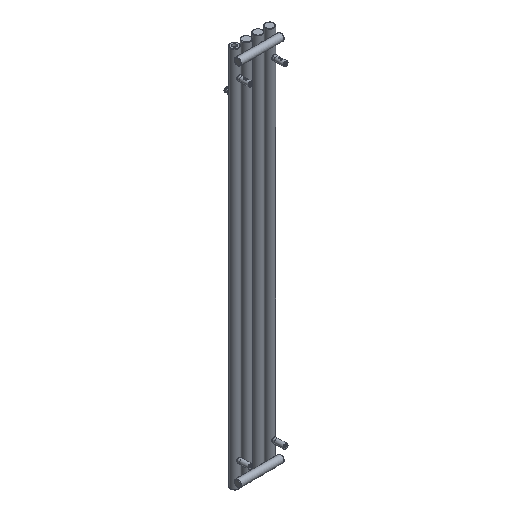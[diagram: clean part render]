
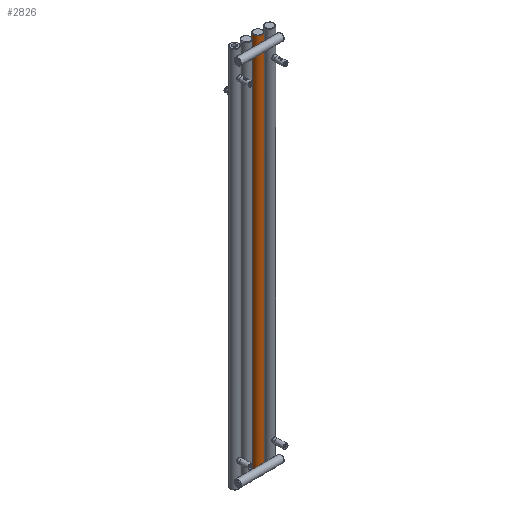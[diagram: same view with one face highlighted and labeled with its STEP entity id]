
A CAD part, isometric view. The second image highlights one B-rep face of the part: STEP entity #2826.
In plain terms, the highlighted cylindrical face has radius 20 mm (diameter 40 mm), a full revolution.
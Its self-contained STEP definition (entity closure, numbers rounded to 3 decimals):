
#199=FACE_BOUND('',#653,.T.);
#200=FACE_BOUND('',#654,.T.);
#201=FACE_BOUND('',#655,.T.);
#237=LINE('',#5260,#327);
#327=VECTOR('',#3522,20.);
#417=CYLINDRICAL_SURFACE('',#3059,20.);
#463=FACE_OUTER_BOUND('',#652,.T.);
#652=EDGE_LOOP('',(#1966,#1967,#1968,#1969,#1970));
#653=EDGE_LOOP('',(#1971));
#654=EDGE_LOOP('',(#1972));
#655=EDGE_LOOP('',(#1973));
#870=B_SPLINE_CURVE_WITH_KNOTS('',3,(#5236,#5237,#5238,#5239,#5240,#5241,
#5242,#5243,#5244,#5245,#5246,#5247,#5248,#5249,#5250,#5251,#5252,#5253,
#5254),.UNSPECIFIED.,.T.,.F.,(4,1,1,1,1,1,1,1,1,1,1,1,1,1,1,1,4),(-5.132,
-4.765,-4.399,-3.91,-3.666,
-3.421,-3.177,-2.933,-2.444,
-2.199,-1.955,-1.711,-1.466,
-1.1,-0.733,-0.367,0.),
 .UNSPECIFIED.);
#871=B_SPLINE_CURVE_WITH_KNOTS('',3,(#5264,#5265,#5266,#5267,#5268,#5269,
#5270,#5271,#5272,#5273,#5274,#5275,#5276,#5277,#5278,#5279,#5280,#5281,
#5282,#5283,#5284,#5285,#5286,#5287,#5288),.UNSPECIFIED.,.T.,.F.,(4,1,1,
1,1,1,1,1,1,1,1,1,1,1,1,1,1,1,1,1,1,1,4),(-5.132,-4.765,
-4.399,-4.154,-3.91,-3.666,
-3.421,-3.177,-2.933,-2.688,
-2.444,-2.322,-2.199,-1.955,
-1.466,-1.1,-0.916,-0.825,
-0.779,-0.756,-0.733,-0.367,
0.),.UNSPECIFIED.);
#872=B_SPLINE_CURVE_WITH_KNOTS('',3,(#5290,#5291,#5292,#5293,#5294,#5295,
#5296,#5297,#5298,#5299,#5300,#5301,#5302,#5303,#5304,#5305,#5306,#5307,
#5308,#5309),.UNSPECIFIED.,.T.,.F.,(4,1,1,1,1,1,1,1,1,1,1,1,1,1,1,1,1,4),
(-6.15,-5.711,-5.272,-4.686,
-4.393,-4.32,-4.247,-4.1,
-3.514,-3.222,-2.929,-2.636,
-2.05,-1.757,-1.318,-0.879,
-0.439,0.),.UNSPECIFIED.);
#934=CIRCLE('',#3060,20.);
#935=CIRCLE('',#3061,20.);
#936=CIRCLE('',#3062,20.);
#1202=VERTEX_POINT('',#5234);
#1203=VERTEX_POINT('',#5256);
#1204=VERTEX_POINT('',#5257);
#1205=VERTEX_POINT('',#5259);
#1206=VERTEX_POINT('',#5263);
#1207=VERTEX_POINT('',#5289);
#1514=EDGE_CURVE('',#1202,#1202,#870,.T.);
#1515=EDGE_CURVE('',#1203,#1204,#934,.T.);
#1516=EDGE_CURVE('',#1203,#1205,#237,.T.);
#1517=EDGE_CURVE('',#1205,#1205,#935,.T.);
#1518=EDGE_CURVE('',#1204,#1203,#936,.T.);
#1519=EDGE_CURVE('',#1206,#1206,#871,.T.);
#1520=EDGE_CURVE('',#1207,#1207,#872,.T.);
#1966=ORIENTED_EDGE('',*,*,#1515,.F.);
#1967=ORIENTED_EDGE('',*,*,#1516,.T.);
#1968=ORIENTED_EDGE('',*,*,#1517,.F.);
#1969=ORIENTED_EDGE('',*,*,#1516,.F.);
#1970=ORIENTED_EDGE('',*,*,#1518,.F.);
#1971=ORIENTED_EDGE('',*,*,#1519,.F.);
#1972=ORIENTED_EDGE('',*,*,#1520,.F.);
#1973=ORIENTED_EDGE('',*,*,#1514,.F.);
#2826=ADVANCED_FACE('',(#463,#199,#200,#201),#417,.T.);
#3059=AXIS2_PLACEMENT_3D('',#5255,#3518,#3519);
#3060=AXIS2_PLACEMENT_3D('',#5258,#3520,#3521);
#3061=AXIS2_PLACEMENT_3D('',#5261,#3523,#3524);
#3062=AXIS2_PLACEMENT_3D('',#5262,#3525,#3526);
#3518=DIRECTION('center_axis',(0.,0.,1.));
#3519=DIRECTION('ref_axis',(-1.,0.,0.));
#3520=DIRECTION('center_axis',(0.,0.,1.));
#3521=DIRECTION('ref_axis',(-1.,0.,0.));
#3522=DIRECTION('',(0.,0.,-1.));
#3523=DIRECTION('center_axis',(0.,0.,-1.));
#3524=DIRECTION('ref_axis',(-1.,0.,0.));
#3525=DIRECTION('center_axis',(0.,0.,1.));
#3526=DIRECTION('ref_axis',(-1.,0.,0.));
#5234=CARTESIAN_POINT('',(-55.,-20.,50.1));
#5236=CARTESIAN_POINT('Ctrl Pts',(-55.,-20.,50.1));
#5237=CARTESIAN_POINT('Ctrl Pts',(-56.611,-20.,50.1));
#5238=CARTESIAN_POINT('Ctrl Pts',(-59.83,-19.61,49.58));
#5239=CARTESIAN_POINT('Ctrl Pts',(-64.319,-17.858,46.75));
#5240=CARTESIAN_POINT('Ctrl Pts',(-66.21,-16.549,41.99));
#5241=CARTESIAN_POINT('Ctrl Pts',(-65.866,-16.799,37.471));
#5242=CARTESIAN_POINT('Ctrl Pts',(-64.65,-17.552,34.432));
#5243=CARTESIAN_POINT('Ctrl Pts',(-62.534,-18.591,32.08));
#5244=CARTESIAN_POINT('Ctrl Pts',(-58.836,-19.82,30.088));
#5245=CARTESIAN_POINT('Ctrl Pts',(-54.418,-20.203,29.641));
#5246=CARTESIAN_POINT('Ctrl Pts',(-50.239,-19.503,30.58));
#5247=CARTESIAN_POINT('Ctrl Pts',(-47.466,-18.592,32.084));
#5248=CARTESIAN_POINT('Ctrl Pts',(-45.351,-17.554,34.428));
#5249=CARTESIAN_POINT('Ctrl Pts',(-43.927,-16.661,37.981));
#5250=CARTESIAN_POINT('Ctrl Pts',(-43.922,-16.659,42.598));
#5251=CARTESIAN_POINT('Ctrl Pts',(-46.137,-18.052,47.027));
#5252=CARTESIAN_POINT('Ctrl Pts',(-50.165,-19.6,49.585));
#5253=CARTESIAN_POINT('Ctrl Pts',(-53.389,-20.,50.1));
#5254=CARTESIAN_POINT('Ctrl Pts',(-55.,-20.,50.1));
#5255=CARTESIAN_POINT('Origin',(-55.,0.,0.));
#5256=CARTESIAN_POINT('',(-35.,0.,1798.));
#5257=CARTESIAN_POINT('',(-75.,0.,1798.));
#5258=CARTESIAN_POINT('Origin',(-55.,0.,1798.));
#5259=CARTESIAN_POINT('',(-35.,0.,2.));
#5260=CARTESIAN_POINT('',(-35.,0.,0.));
#5261=CARTESIAN_POINT('Origin',(-55.,0.,2.));
#5262=CARTESIAN_POINT('Origin',(-55.,0.,1798.));
#5263=CARTESIAN_POINT('',(-55.,-20.,1770.1));
#5264=CARTESIAN_POINT('Ctrl Pts',(-55.,-20.,1770.1));
#5265=CARTESIAN_POINT('Ctrl Pts',(-56.611,-20.,1770.1));
#5266=CARTESIAN_POINT('Ctrl Pts',(-59.838,-19.598,1769.588));
#5267=CARTESIAN_POINT('Ctrl Pts',(-63.412,-18.224,1767.307));
#5268=CARTESIAN_POINT('Ctrl Pts',(-65.38,-17.114,1764.116));
#5269=CARTESIAN_POINT('Ctrl Pts',(-66.115,-16.625,1760.853));
#5270=CARTESIAN_POINT('Ctrl Pts',(-65.87,-16.793,1757.475));
#5271=CARTESIAN_POINT('Ctrl Pts',(-64.649,-17.553,1754.429));
#5272=CARTESIAN_POINT('Ctrl Pts',(-62.534,-18.591,1752.084));
#5273=CARTESIAN_POINT('Ctrl Pts',(-59.761,-19.507,1750.583));
#5274=CARTESIAN_POINT('Ctrl Pts',(-56.624,-20.021,1749.87));
#5275=CARTESIAN_POINT('Ctrl Pts',(-53.917,-20.022,1749.871));
#5276=CARTESIAN_POINT('Ctrl Pts',(-51.806,-19.764,1750.226));
#5277=CARTESIAN_POINT('Ctrl Pts',(-49.778,-19.355,1750.836));
#5278=CARTESIAN_POINT('Ctrl Pts',(-46.524,-18.281,1752.559));
#5279=CARTESIAN_POINT('Ctrl Pts',(-43.908,-16.656,1756.803));
#5280=CARTESIAN_POINT('Ctrl Pts',(-43.931,-16.663,1761.738));
#5281=CARTESIAN_POINT('Ctrl Pts',(-44.887,-17.265,1764.433));
#5282=CARTESIAN_POINT('Ctrl Pts',(-45.595,-17.654,1765.634));
#5283=CARTESIAN_POINT('Ctrl Pts',(-46.001,-17.862,1766.19));
#5284=CARTESIAN_POINT('Ctrl Pts',(-46.248,-17.984,1766.495));
#5285=CARTESIAN_POINT('Ctrl Pts',(-47.399,-18.537,1767.826));
#5286=CARTESIAN_POINT('Ctrl Pts',(-50.162,-19.595,1769.586));
#5287=CARTESIAN_POINT('Ctrl Pts',(-53.389,-20.,1770.1));
#5288=CARTESIAN_POINT('Ctrl Pts',(-55.,-20.,1770.1));
#5289=CARTESIAN_POINT('',(-65.476,17.037,1600.));
#5290=CARTESIAN_POINT('Ctrl Pts',(-65.476,17.037,1600.));
#5291=CARTESIAN_POINT('Ctrl Pts',(-65.476,17.037,1601.678));
#5292=CARTESIAN_POINT('Ctrl Pts',(-64.71,17.528,1605.001));
#5293=CARTESIAN_POINT('Ctrl Pts',(-61.469,19.119,1609.277));
#5294=CARTESIAN_POINT('Ctrl Pts',(-56.91,20.127,1611.233));
#5295=CARTESIAN_POINT('Ctrl Pts',(-53.388,19.971,1610.943));
#5296=CARTESIAN_POINT('Ctrl Pts',(-51.861,19.759,1610.505));
#5297=CARTESIAN_POINT('Ctrl Pts',(-50.87,19.582,1610.135));
#5298=CARTESIAN_POINT('Ctrl Pts',(-48.287,18.971,1608.808));
#5299=CARTESIAN_POINT('Ctrl Pts',(-45.767,17.791,1605.96));
#5300=CARTESIAN_POINT('Ctrl Pts',(-44.484,17.016,1601.705));
#5301=CARTESIAN_POINT('Ctrl Pts',(-44.483,17.014,1598.292));
#5302=CARTESIAN_POINT('Ctrl Pts',(-45.768,17.796,1594.038));
#5303=CARTESIAN_POINT('Ctrl Pts',(-48.647,19.134,1590.784));
#5304=CARTESIAN_POINT('Ctrl Pts',(-53.071,20.044,1588.907));
#5305=CARTESIAN_POINT('Ctrl Pts',(-57.481,20.04,1588.913));
#5306=CARTESIAN_POINT('Ctrl Pts',(-61.783,18.95,1591.159));
#5307=CARTESIAN_POINT('Ctrl Pts',(-64.716,17.532,1594.996));
#5308=CARTESIAN_POINT('Ctrl Pts',(-65.476,17.037,1598.322));
#5309=CARTESIAN_POINT('Ctrl Pts',(-65.476,17.037,1600.));
